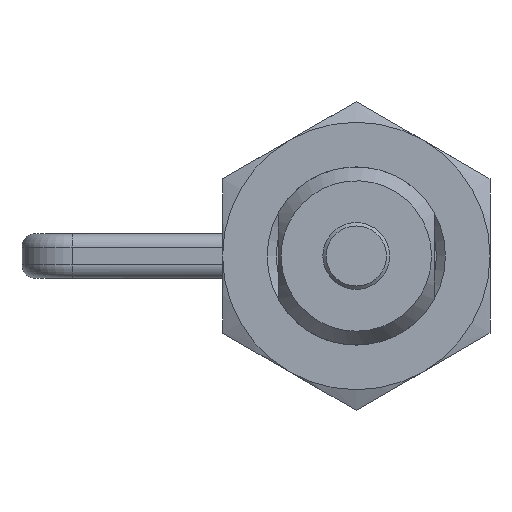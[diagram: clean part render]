
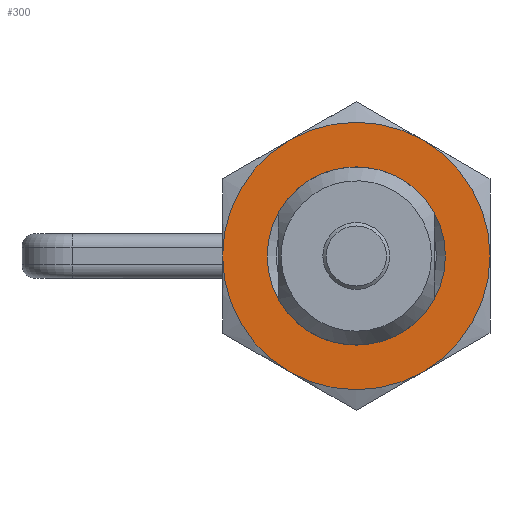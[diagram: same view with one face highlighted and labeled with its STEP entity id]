
A CAD part, front view. The second image highlights one B-rep face of the part: STEP entity #300.
In plain terms, the highlighted planar face has unit normal (0, -1, 0).
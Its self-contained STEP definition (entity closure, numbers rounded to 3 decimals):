
#300 = ADVANCED_FACE( '', ( #519, #520 ), #521, .F. );
#519 = FACE_BOUND( '', #741, .T. );
#520 = FACE_OUTER_BOUND( '', #742, .T. );
#521 = PLANE( '', #743 );
#741 = EDGE_LOOP( '', ( #1425 ) );
#742 = EDGE_LOOP( '', ( #1426, #1427, #1428, #1429, #1430, #1431 ) );
#743 = AXIS2_PLACEMENT_3D( '', #1432, #1433, #1434 );
#1425 = ORIENTED_EDGE( '', *, *, #1646, .F. );
#1426 = ORIENTED_EDGE( '', *, *, #1649, .T. );
#1427 = ORIENTED_EDGE( '', *, *, #1650, .T. );
#1428 = ORIENTED_EDGE( '', *, *, #1616, .T. );
#1429 = ORIENTED_EDGE( '', *, *, #1641, .T. );
#1430 = ORIENTED_EDGE( '', *, *, #1642, .T. );
#1431 = ORIENTED_EDGE( '', *, *, #1643, .T. );
#1432 = CARTESIAN_POINT( '', ( 12., 0., 0. ) );
#1433 = DIRECTION( '', ( 0., 1., 0. ) );
#1434 = DIRECTION( '', ( 0., 0., 1. ) );
#1616 = EDGE_CURVE( '', #1938, #1939, #1940, .T. );
#1641 = EDGE_CURVE( '', #1939, #1920, #1977, .T. );
#1642 = EDGE_CURVE( '', #1920, #1932, #1978, .T. );
#1643 = EDGE_CURVE( '', #1932, #1979, #1980, .T. );
#1646 = EDGE_CURVE( '', #1983, #1983, #1984, .T. );
#1649 = EDGE_CURVE( '', #1979, #1947, #1989, .T. );
#1650 = EDGE_CURVE( '', #1947, #1938, #1990, .T. );
#1920 = VERTEX_POINT( '', #2690 );
#1932 = VERTEX_POINT( '', #2724 );
#1938 = VERTEX_POINT( '', #2754 );
#1939 = VERTEX_POINT( '', #2755 );
#1940 = CIRCLE( '', #2756, 12. );
#1947 = VERTEX_POINT( '', #2776 );
#1977 = CIRCLE( '', #2876, 12. );
#1978 = CIRCLE( '', #2877, 12. );
#1979 = VERTEX_POINT( '', #2878 );
#1980 = CIRCLE( '', #2879, 12. );
#1983 = VERTEX_POINT( '', #2894 );
#1984 = CIRCLE( '', #2895, 8. );
#1989 = CIRCLE( '', #2900, 12. );
#1990 = CIRCLE( '', #2901, 12. );
#2690 = CARTESIAN_POINT( '', ( -12., 0., 0. ) );
#2724 = CARTESIAN_POINT( '', ( -6., 0., -10.392 ) );
#2754 = CARTESIAN_POINT( '', ( 6., 0., 10.392 ) );
#2755 = CARTESIAN_POINT( '', ( -6., 0., 10.392 ) );
#2756 = AXIS2_PLACEMENT_3D( '', #3188, #3189, #3190 );
#2776 = CARTESIAN_POINT( '', ( 12., 0., 0. ) );
#2876 = AXIS2_PLACEMENT_3D( '', #3215, #3216, #3217 );
#2877 = AXIS2_PLACEMENT_3D( '', #3218, #3219, #3220 );
#2878 = CARTESIAN_POINT( '', ( 6., 0., -10.392 ) );
#2879 = AXIS2_PLACEMENT_3D( '', #3221, #3222, #3223 );
#2894 = CARTESIAN_POINT( '', ( 0., 0., -8. ) );
#2895 = AXIS2_PLACEMENT_3D( '', #3224, #3225, #3226 );
#2900 = AXIS2_PLACEMENT_3D( '', #3233, #3234, #3235 );
#2901 = AXIS2_PLACEMENT_3D( '', #3236, #3237, #3238 );
#3188 = CARTESIAN_POINT( '', ( 0., 0., 0. ) );
#3189 = DIRECTION( '', ( 0., -1., 0. ) );
#3190 = DIRECTION( '', ( 0., 0., -1. ) );
#3215 = CARTESIAN_POINT( '', ( 0., 0., 0. ) );
#3216 = DIRECTION( '', ( 0., -1., 0. ) );
#3217 = DIRECTION( '', ( 0., 0., -1. ) );
#3218 = CARTESIAN_POINT( '', ( 0., 0., 0. ) );
#3219 = DIRECTION( '', ( 0., -1., 0. ) );
#3220 = DIRECTION( '', ( 0., 0., -1. ) );
#3221 = CARTESIAN_POINT( '', ( 0., 0., 0. ) );
#3222 = DIRECTION( '', ( 0., -1., 0. ) );
#3223 = DIRECTION( '', ( 0., 0., -1. ) );
#3224 = CARTESIAN_POINT( '', ( 0., 0., 0. ) );
#3225 = DIRECTION( '', ( 0., -1., 0. ) );
#3226 = DIRECTION( '', ( 0., 0., -1. ) );
#3233 = CARTESIAN_POINT( '', ( 0., 0., 0. ) );
#3234 = DIRECTION( '', ( 0., -1., 0. ) );
#3235 = DIRECTION( '', ( 0., 0., -1. ) );
#3236 = CARTESIAN_POINT( '', ( 0., 0., 0. ) );
#3237 = DIRECTION( '', ( 0., -1., 0. ) );
#3238 = DIRECTION( '', ( 0., 0., -1. ) );
